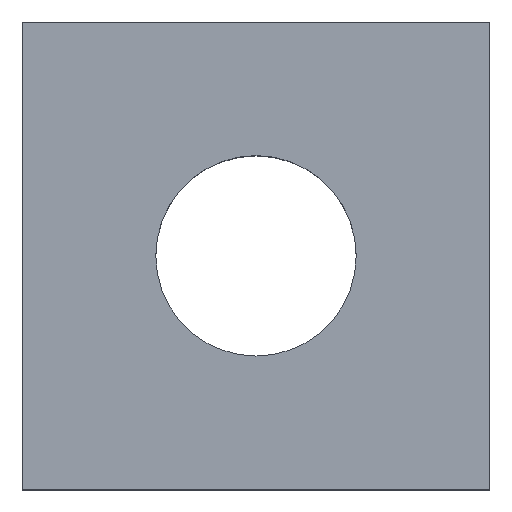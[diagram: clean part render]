
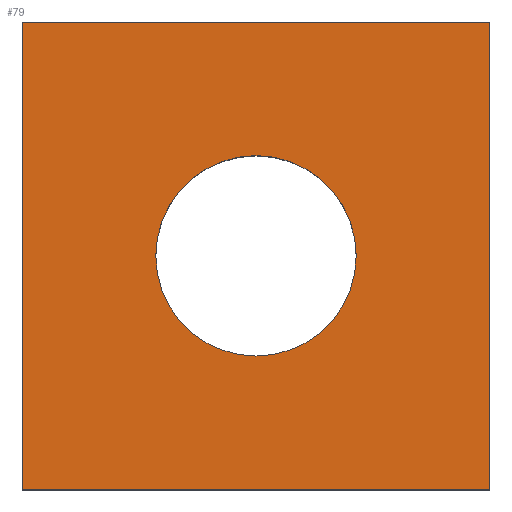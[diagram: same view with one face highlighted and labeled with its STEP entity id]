
A CAD part, top view. The second image highlights one B-rep face of the part: STEP entity #79.
In plain terms, the highlighted free-form (B-spline) face has degree [1, 1] with [2, 2] control points.
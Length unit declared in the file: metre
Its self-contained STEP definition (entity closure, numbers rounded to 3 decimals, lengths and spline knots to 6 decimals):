
#79 = ADVANCED_FACE( '', ( #93, #94 ), #95, .T. );
#93 = FACE_BOUND( '', #139, .T. );
#94 = FACE_OUTER_BOUND( '', #140, .T. );
#95 = B_SPLINE_SURFACE_WITH_KNOTS( '', 1, 1, ( ( #141, #142 ), ( #143, #144 ) ), .UNSPECIFIED., .F., .F., .F., ( 2, 2 ), ( 2, 2 ), ( 0., 1. ), ( 0., 1. ), .UNSPECIFIED. );
#139 = EDGE_LOOP( '', ( #170 ) );
#140 = EDGE_LOOP( '', ( #171, #172, #173, #174 ) );
#141 = CARTESIAN_POINT( '', ( 11.840735, 7.416502, 0.289439 ) );
#142 = CARTESIAN_POINT( '', ( 11.840735, 7.431902, 0.289439 ) );
#143 = CARTESIAN_POINT( '', ( 11.856135, 7.416502, 0.289439 ) );
#144 = CARTESIAN_POINT( '', ( 11.856135, 7.431902, 0.289439 ) );
#170 = ORIENTED_EDGE( '', *, *, #187, .F. );
#171 = ORIENTED_EDGE( '', *, *, #194, .T. );
#172 = ORIENTED_EDGE( '', *, *, #195, .T. );
#173 = ORIENTED_EDGE( '', *, *, #183, .T. );
#174 = ORIENTED_EDGE( '', *, *, #189, .T. );
#183 = EDGE_CURVE( '', #197, #198, #199, .T. );
#187 = EDGE_CURVE( '', #205, #205, #206, .T. );
#189 = EDGE_CURVE( '', #198, #209, #210, .T. );
#194 = EDGE_CURVE( '', #209, #217, #218, .T. );
#195 = EDGE_CURVE( '', #217, #197, #219, .T. );
#197 = VERTEX_POINT( '', #221 );
#198 = VERTEX_POINT( '', #222 );
#199 = LINE( '', #223, #224 );
#205 = VERTEX_POINT( '', #233 );
#206 = CIRCLE( '', #234, 0.003 );
#209 = VERTEX_POINT( '', #237 );
#210 = LINE( '', #238, #239 );
#217 = VERTEX_POINT( '', #250 );
#218 = LINE( '', #251, #252 );
#219 = LINE( '', #253, #254 );
#221 = CARTESIAN_POINT( '', ( 11.855435, 7.417202, 0.289439 ) );
#222 = CARTESIAN_POINT( '', ( 11.855435, 7.431202, 0.289439 ) );
#223 = CARTESIAN_POINT( '', ( 11.855435, 7.424202, 0.289439 ) );
#224 = VECTOR( '', #257, 1. );
#233 = CARTESIAN_POINT( '', ( 11.851435, 7.424202, 0.289439 ) );
#234 = AXIS2_PLACEMENT_3D( '', #261, #262, #263 );
#237 = CARTESIAN_POINT( '', ( 11.841435, 7.431202, 0.289439 ) );
#238 = CARTESIAN_POINT( '', ( 11.848435, 7.431202, 0.289439 ) );
#239 = VECTOR( '', #267, 1. );
#250 = CARTESIAN_POINT( '', ( 11.841435, 7.417202, 0.289439 ) );
#251 = CARTESIAN_POINT( '', ( 11.841435, 7.424202, 0.289439 ) );
#252 = VECTOR( '', #272, 1. );
#253 = CARTESIAN_POINT( '', ( 11.848435, 7.417202, 0.289439 ) );
#254 = VECTOR( '', #273, 1. );
#257 = DIRECTION( '', ( 0., 1., 0. ) );
#261 = CARTESIAN_POINT( '', ( 11.848435, 7.424202, 0.289439 ) );
#262 = DIRECTION( '', ( 0., 0., 1. ) );
#263 = DIRECTION( '', ( 0., -1., 0. ) );
#267 = DIRECTION( '', ( -1., 0., 0. ) );
#272 = DIRECTION( '', ( 0., -1., 0. ) );
#273 = DIRECTION( '', ( 1., 0., 0. ) );
